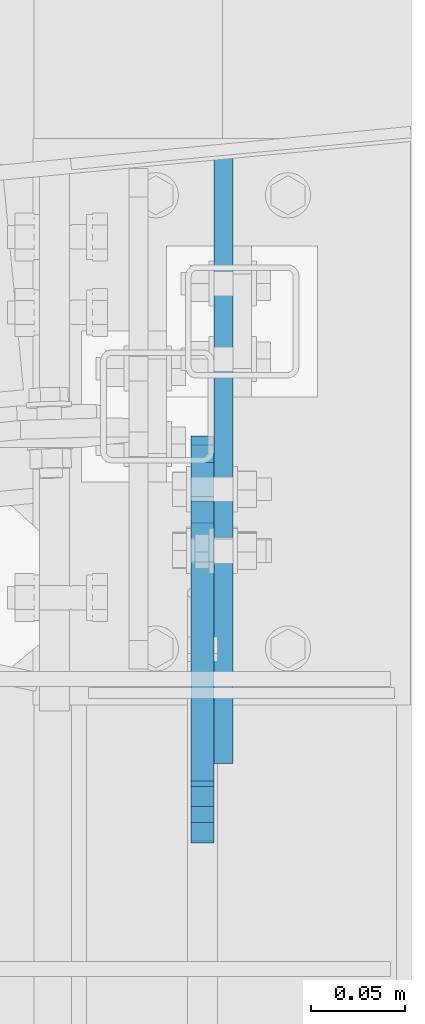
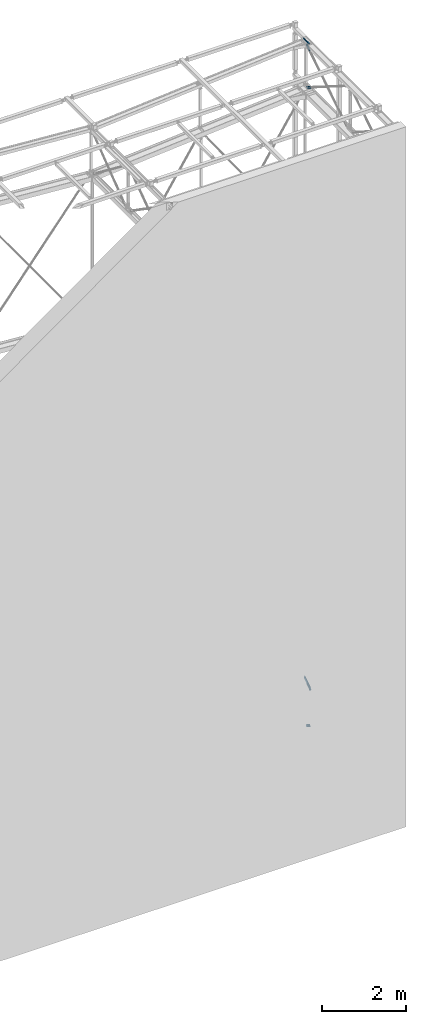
# One storey, part 185 of 271: 6 plates, 6 elements without a shape of their own.
"""IFC2X3 building model written with IfcOpenShell, lengths in millimetres."""

from ifc_helpers import new_model, si_unit, frame, origin_with_axes, place, context, subcontext, project, spatial, polyline, outline, extrude, material, type_object, element, aggregate, save


model = new_model("IFC2X3")

# Units and contexts
model_context = context("Model", 3, precision=1e-05, world=origin_with_axes())
body_context = subcontext(model_context, "Body", "Model", "MODEL_VIEW")
ifc_project = project(units=[si_unit("LENGTHUNIT", "METRE", prefix="MILLI"), si_unit("AREAUNIT", "SQUARE_METRE"), si_unit("VOLUMEUNIT", "CUBIC_METRE"), si_unit("MASSUNIT", "GRAM", prefix="KILO"), si_unit("TIMEUNIT", "SECOND"), si_unit("PLANEANGLEUNIT", "RADIAN"), si_unit("SOLIDANGLEUNIT", "STERADIAN"), si_unit("THERMODYNAMICTEMPERATUREUNIT", "DEGREE_CELSIUS"), si_unit("LUMINOUSINTENSITYUNIT", "LUMEN")], contexts=[model_context])

# Site, building, storey
site_placement = place(None, origin_with_axes())
site = spatial("IfcSite", under=ifc_project, at=site_placement, Name="Undefined", CompositionType="ELEMENT")
building_placement = place(site_placement, origin_with_axes())
building = spatial("IfcBuilding", under=site, at=building_placement, Name="Undefined", CompositionType="ELEMENT")
storey_placement = place(building_placement, origin_with_axes())
storey = spatial("IfcBuildingStorey", under=building, at=storey_placement, Name="Undefined", CompositionType="ELEMENT", Elevation=0.0)

# Assembly, plate
assembly_1_placement = place(storey_placement, origin_with_axes())
assembly_1 = element("IfcElementAssembly", 1, at=assembly_1_placement, inside=storey, AssemblyPlace="NOTDEFINED", PredefinedType="RIGID_FRAME")
ifc_material = material(Name="STEEL/S355JR")
plate_type_1 = type_object("IfcPlateType", Name="BL12*56", PredefinedType="NOTDEFINED")
plate_1_placement = place(assembly_1_placement, frame((12597.7513748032, 4209.82287430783, 1316.81120714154), z_axis=(-1.0, 0.0, 1.38777878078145e-17), x_axis=(0.0, 0.975735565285, -0.218952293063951)))
plate_1 = element("IfcPlate", 2, at=plate_1_placement, type_object=plate_type_1, material=ifc_material, Name="BLACHA", ObjectType="BL12*56", context=body_context, shape_type="SweptSolid", body=[
    extrude(outline(polyline([(0.0, 0.0), (21.2132034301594, 1.09139364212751e-11), (39.5979804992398, 18.3847751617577), (39.5979804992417, 39.5979804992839), (-84.1457061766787, 163.341659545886), (-98.2878417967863, 149.199523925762), (-27.577165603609, 78.488853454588), (-38.8908729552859, 67.1751480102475), (-109.60155487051, 137.885818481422), (-123.743690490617, 123.743690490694), (0.0, 0.0)])), frame((0.0, 0.0, -6.0), z_axis=(0.0, 0.0, 1.0), x_axis=(1.0, 0.0, 0.0)), (0.0, 0.0, 1.0), 12.0),
])
aggregate(assembly_1, [plate_1])

assembly_2_placement = place(storey_placement, origin_with_axes())
assembly_2 = element("IfcElementAssembly", 3, at=assembly_2_placement, inside=storey, AssemblyPlace="NOTDEFINED", PredefinedType="RIGID_FRAME")
plate_2_placement = place(assembly_2_placement, frame((12597.7513741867, 4241.87939075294, 19977.378288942), z_axis=(-1.0, 0.0, 1.38777878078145e-17), x_axis=(0.0, 0.975225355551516, -0.221213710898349)))
plate_2 = element("IfcPlate", 4, at=plate_2_placement, type_object=plate_type_1, material=ifc_material, Name="BLACHA", ObjectType="BL12*56", context=body_context, shape_type="SweptSolid", body=[
    extrude(outline(polyline([(0.0, 0.0), (21.2132034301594, 1.09139364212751e-11), (39.5979804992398, 18.3847751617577), (39.5979804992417, 39.5979804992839), (-84.1457061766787, 163.341659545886), (-98.2878417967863, 149.199523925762), (-27.577165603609, 78.488853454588), (-38.8908729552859, 67.1751480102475), (-109.60155487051, 137.885818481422), (-123.743690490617, 123.743690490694), (0.0, 0.0)])), frame((0.0, 0.0, -6.0), z_axis=(0.0, 0.0, 1.0), x_axis=(1.0, 0.0, 0.0)), (0.0, 0.0, 1.0), 12.0),
])
aggregate(assembly_2, [plate_2])

assembly_3_placement = place(storey_placement, origin_with_axes())
assembly_3 = element("IfcElementAssembly", 5, at=assembly_3_placement, inside=storey, AssemblyPlace="NOTDEFINED", PredefinedType="RIGID_FRAME")
plate_3_placement = place(assembly_3_placement, frame((12597.7513741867, 4238.97003549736, 18739.3482793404), z_axis=(-1.0, 0.0, 1.38777878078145e-17), x_axis=(0.0, 0.221213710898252, -0.975225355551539)))
plate_3 = element("IfcPlate", 6, at=plate_3_placement, type_object=plate_type_1, material=ifc_material, Name="BLACHA", ObjectType="BL12*56", context=body_context, shape_type="SweptSolid", body=[
    extrude(outline(polyline([(0.0, 0.0), (21.2132034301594, 1.09139364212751e-11), (39.5979804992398, 18.3847751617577), (39.5979804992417, 39.5979804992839), (-84.1457061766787, 163.341659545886), (-98.2878417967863, 149.199523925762), (-27.577165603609, 78.488853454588), (-38.8908729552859, 67.1751480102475), (-109.60155487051, 137.885818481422), (-123.743690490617, 123.743690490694), (0.0, 0.0)])), frame((0.0, 0.0, -6.0), z_axis=(0.0, 0.0, 1.0), x_axis=(1.0, 0.0, 0.0)), (0.0, 0.0, 1.0), 12.0),
])
aggregate(assembly_3, [plate_3])

assembly_4_placement = place(storey_placement, origin_with_axes())
assembly_4 = element("IfcElementAssembly", 7, at=assembly_4_placement, inside=storey, AssemblyPlace="NOTDEFINED", PredefinedType="RIGID_FRAME")
plate_4_placement = place(assembly_4_placement, frame((12597.7513748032, 4271.73672776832, 71.6982794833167), z_axis=(-1.0, 0.0, 1.38777878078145e-17), x_axis=(0.0, 0.221213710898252, -0.975225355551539)))
plate_4 = element("IfcPlate", 8, at=plate_4_placement, type_object=plate_type_1, material=ifc_material, Name="BLACHA", ObjectType="BL12*56", context=body_context, shape_type="SweptSolid", body=[
    extrude(outline(polyline([(0.0, 0.0), (21.2132034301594, 1.09139364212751e-11), (39.5979804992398, 18.3847751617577), (39.5979804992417, 39.5979804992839), (-84.1457061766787, 163.341659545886), (-98.2878417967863, 149.199523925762), (-27.577165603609, 78.488853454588), (-38.8908729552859, 67.1751480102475), (-109.60155487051, 137.885818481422), (-123.743690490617, 123.743690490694), (0.0, 0.0)])), frame((0.0, 0.0, -6.0), z_axis=(0.0, 0.0, 1.0), x_axis=(1.0, 0.0, 0.0)), (0.0, 0.0, 1.0), 12.0),
])
aggregate(assembly_4, [plate_4])

assembly_5_placement = place(storey_placement, origin_with_axes())
assembly_5 = element("IfcElementAssembly", 9, at=assembly_5_placement, inside=storey, AssemblyPlace="NOTDEFINED", PredefinedType="RIGID_FRAME")
plate_type_2 = type_object("IfcPlateType", Name="BL10*40", PredefinedType="NOTDEFINED")
plate_5_placement = place(assembly_5_placement, frame((12608.751374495, 4424.19355050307, 20007.0), z_axis=(-1.0, 0.0, 1.38777878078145e-17), x_axis=(0.0, -1.0, 0.0)))
plate_5 = element("IfcPlate", 10, at=plate_5_placement, type_object=plate_type_2, material=ifc_material, Name="BLACHA", ObjectType="BL10*40", context=body_context, shape_type="SweptSolid", body=[
    extrude(outline(polyline([(0.0, 15.0), (15.0, -1.59872115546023e-14), (265.0, 0.0), (280.0, 15.0), (280.0, 40.0000000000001), (0.0, 40.0), (0.0, 15.0)])), frame((0.0, 0.0, -5.0), z_axis=(0.0, 0.0, 1.0), x_axis=(1.0, 0.0, 0.0)), (0.0, 0.0, 1.0), 10.0),
])
aggregate(assembly_5, [plate_5])

assembly_6_placement = place(storey_placement, origin_with_axes())
assembly_6 = element("IfcElementAssembly", 11, at=assembly_6_placement, inside=storey, AssemblyPlace="NOTDEFINED", PredefinedType="RIGID_FRAME")
plate_type_3 = type_object("IfcPlateType", Name="BL10*76", PredefinedType="NOTDEFINED")
plate_6_placement = place(assembly_6_placement, frame((12608.7513748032, 4245.13634054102, 1261.04999995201), z_axis=(-1.0, 0.0, 1.38777878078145e-17), x_axis=(0.0, -1.0, 0.0)))
plate_6 = element("IfcPlate", 12, at=plate_6_placement, type_object=plate_type_3, material=ifc_material, Name="BLACHA", ObjectType="BL10*76", context=body_context, shape_type="SweptSolid", body=[
    extrude(outline(polyline([(0.0, 0.0), (142.027465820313, 0.0), (-123.678413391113, 168.313232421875), (-164.348037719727, 104.110565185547), (0.0, 0.0)])), frame((0.0, 0.0, -5.0), z_axis=(0.0, 0.0, 1.0), x_axis=(1.0, 0.0, 0.0)), (0.0, 0.0, 1.0), 10.0),
])
aggregate(assembly_6, [plate_6])

save(model, "model.ifc")
